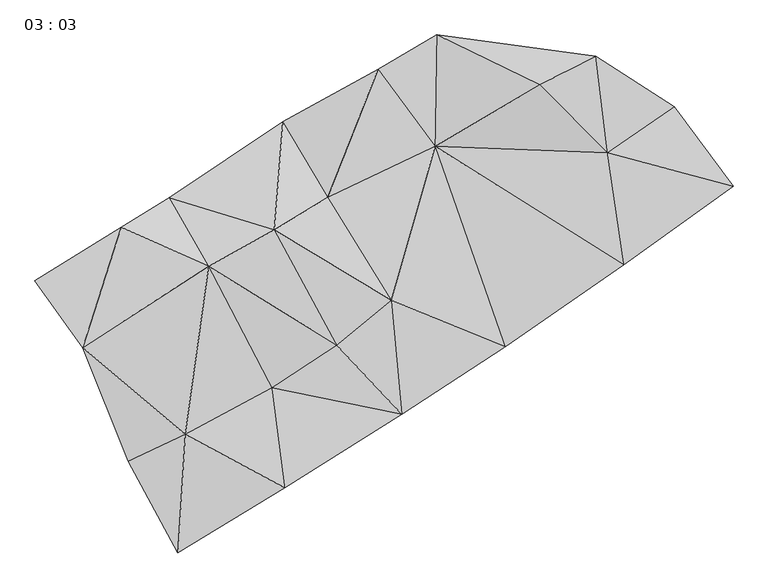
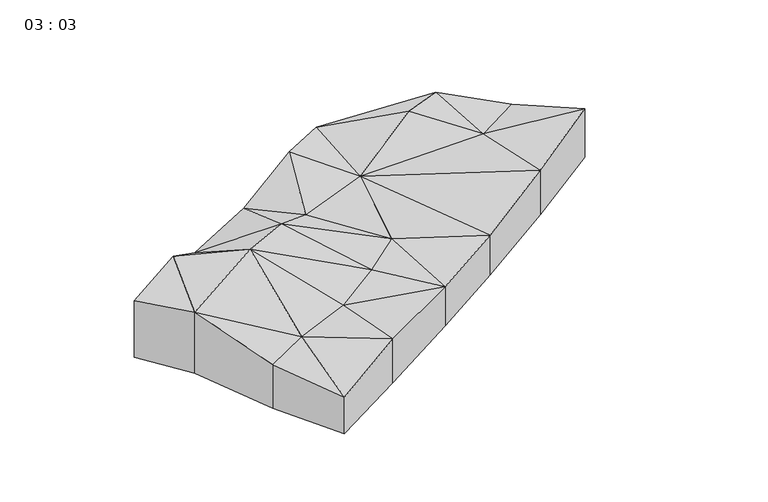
"""IFC4 building model written with IfcOpenShell, lengths in millimetres: proxy geometry, 03 : 03."""

from ifc_helpers import new_model, si_unit, origin, place, context, project, spatial, faceted_brep, source, transform, mapped, element, save


def proxy_03_03_c8344aab(model_context):
    return source(origin(), model_context, "Body", "Brep", [
        faceted_brep([(109246.9, 77446.0, 20300.0000001), (73370.7000001, 99048.0, 26760.0000001), (92535.7000001, 63691.9999999, 20180.0000001), (53257.2000001, 87839.9999999, 28650.0), (72638.0, 50626.9999998, 18690.0), (89776.2999999, 109001.0000005, 19000.0), (122674.7000003, 124652.0000001, 15920.0), (175415.7000003, 122621.0000002, 18220.0), (154708.2, 143430.0000003, 23319.9999999), (46060.6000001, 36347.9999998, 22080.0), (76585.3000001, 19975.9999999, 20270.0), (112499.9999999, 42504.0000005, 18140.0), (76585.2999999, 19976.0000001, 0.0), (112499.9999999, 42504.0000005, 0.0), (144182.7, 63139.0000003, 18460.0), (144182.6999999, 63139.0000003, 0.0), (180474.7, 88274.0, 20540.0), (180474.7000002, 88274.0000001, 0.0), (213997.9, 112465.0, 22650.0), (213997.9, 112465.0, 0.0), (195922.7000001, 136696.0, 16280.0), (195922.7000001, 136696.0, 0.0), (171825.6999999, 152291.9999995, 20850.0), (171825.6999999, 152291.9999996, 0.0), (123220.0000001, 158776.9999998, 17740.0), (123220.0000001, 158776.9999998, 0.0), (105193.8000001, 148285.0000002, 18940.0), (105193.8000001, 148285.0000002, 0.0), (76004.4000003, 132168.9999999, 12880.0000001), (76004.4000003, 132168.9999999, 0.0), (41179.9000001, 108890.0000003, 18469.9999999), (41179.9000001, 108890.0000003, 0.0), (26508.4000001, 99796.9999998, 27690.0), (26508.4000001, 99796.9999998, 0.0), (0.0, 83486.0000002, 26170.0), (-1e-07, 83486.0000002, 0.0), (14635.4000001, 62941.9999998, 28260.0), (14635.4000001, 62941.9999998, 0.0), (43823.3000001, 0.0, 0.0), (28569.7000001, 28094.0, 0.0), (43823.3000004, -4e-07, 16810.0), (28569.7000001, 28094.0, 20260.0)], [[[0, 1, 2]], [[2, 1, 3]], [[2, 3, 4]], [[0, 5, 1]], [[0, 6, 5]], [[7, 8, 6]], [[4, 3, 9]], [[10, 4, 9]], [[11, 10, 12, 13]], [[11, 4, 10]], [[11, 2, 4]], [[11, 0, 2]], [[14, 11, 13, 15]], [[14, 0, 11]], [[14, 6, 0]], [[16, 6, 14]], [[16, 14, 15, 17]], [[16, 7, 6]], [[18, 16, 17, 19]], [[18, 7, 16]], [[20, 18, 19, 21]], [[18, 20, 7]], [[22, 20, 21, 23]], [[7, 22, 8]], [[20, 22, 7]], [[24, 22, 23, 25]], [[8, 24, 6]], [[22, 24, 8]], [[6, 26, 5]], [[26, 24, 25, 27]], [[6, 24, 26]], [[28, 26, 27, 29]], [[28, 5, 26]], [[28, 1, 5]], [[28, 30, 1]], [[30, 28, 29, 31]], [[30, 3, 1]], [[32, 30, 31, 33]], [[30, 32, 3]], [[34, 32, 33, 35]], [[36, 34, 35, 37]], [[32, 34, 36]], [[32, 36, 3]], [[9, 3, 36]], [[38, 39, 37, 35, 33, 31, 29, 27, 25, 23, 21, 19, 17, 15, 13, 12]], [[10, 40, 38, 12]], [[10, 9, 40]], [[40, 9, 41]], [[41, 36, 37, 39]], [[9, 36, 41]], [[40, 41, 39, 38]]]),
    ])


if __name__ == "__main__":
    model = new_model("IFC4")
    model_context = context("Model", 3, world=origin())
    ifc_project = project(units=[si_unit("LENGTHUNIT", "METRE", prefix="MILLI")], contexts=[model_context])
    site = spatial("IfcSite", under=ifc_project)
    building = spatial("IfcBuilding", under=site)
    placement = place(None, origin())
    proxy_03_03_shape = proxy_03_03_c8344aab(model_context)
    element("IfcBuildingElementProxy", 1, Name="03 : 03", ObjectType="03 : 03", at=placement, inside=building, context=model_context, shape_type="MappedRepresentation", body=[
        mapped(proxy_03_03_shape, transform((0.0, 0.0, 0.0), x_axis=(1.0, 0.0, 0.0), y_axis=(0.0, 1.0, 0.0), z_axis=(0.0, 0.0, 1.0))),
    ])
    save(model, "model.ifc")
